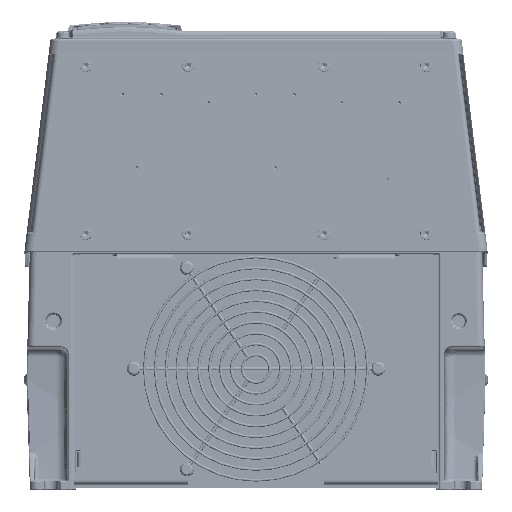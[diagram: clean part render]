
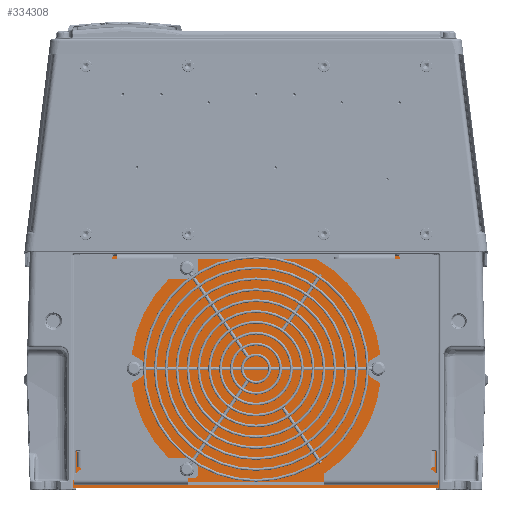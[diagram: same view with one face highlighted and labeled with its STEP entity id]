
A CAD part, front view. The second image highlights one B-rep face of the part: STEP entity #334308.
In plain terms, the highlighted planar face has unit normal (0, -1, 0).
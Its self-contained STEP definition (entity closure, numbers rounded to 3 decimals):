
#111231=DIRECTION('',(0.026,0.,-1.));
#111232=VECTOR('',#111231,153.118);
#111233=CARTESIAN_POINT('',(142.966,-280.301,
-5.935));
#111234=LINE('',#111233,#111232);
#111238=DIRECTION('',(0.026,0.,1.));
#111239=VECTOR('',#111238,153.118);
#111240=CARTESIAN_POINT('',(-146.974,-280.301,-159.));
#111241=LINE('',#111240,#111239);
#111245=CARTESIAN_POINT('',(-140.467,-280.301,-6.));
#111246=DIRECTION('',(0.,1.,0.));
#111247=DIRECTION('',(-1.,0.,0.026));
#111248=AXIS2_PLACEMENT_3D('',#111245,#111246,#111247);
#111253=DIRECTION('',(1.,0.,0.));
#111254=VECTOR('',#111253,285.516);
#111255=CARTESIAN_POINT('',(-142.758,-280.301,
-5.));
#111256=LINE('',#111255,#111254);
#111260=CARTESIAN_POINT('',(140.467,-280.301,-6.));
#111261=DIRECTION('',(0.,1.,0.));
#111262=DIRECTION('',(0.917,0.,0.4));
#111263=AXIS2_PLACEMENT_3D('',#111260,#111261,#111262);
#111340=CARTESIAN_POINT('',(142.758,-280.301,
-5.));
#114860=DIRECTION('',(1.,0.,0.));
#114861=VECTOR('',#114860,293.948);
#114862=CARTESIAN_POINT('',(-146.974,-280.301,-159.));
#114863=LINE('',#114862,#114861);
#198327=CARTESIAN_POINT('',(-146.974,-280.301,-159.));
#198328=CARTESIAN_POINT('',(-142.966,-280.301,
-5.935));
#198329=VERTEX_POINT('',#198327);
#198330=VERTEX_POINT('',#198328);
#198376=CARTESIAN_POINT('',(146.974,-280.301,-159.));
#198377=VERTEX_POINT('',#198376);
#198776=CARTESIAN_POINT('',(142.966,-280.301,
-5.935));
#198777=VERTEX_POINT('',#198776);
#199683=VERTEX_POINT('',#111340);
#199684=CARTESIAN_POINT('',(-142.758,-280.301,
-5.));
#199685=VERTEX_POINT('',#199684);
#334290=CARTESIAN_POINT('',(146.974,-280.301,-5.));
#334291=DIRECTION('',(0.,-1.,0.));
#334292=DIRECTION('',(-1.,0.,0.));
#334293=AXIS2_PLACEMENT_3D('',#334290,#334291,#334292);
#334294=PLANE('',#334293);
#334296=ORIENTED_EDGE('',*,*,#334295,.T.);
#334298=ORIENTED_EDGE('',*,*,#334297,.F.);
#334299=ORIENTED_EDGE('',*,*,#334264,.T.);
#334301=ORIENTED_EDGE('',*,*,#334300,.T.);
#334303=ORIENTED_EDGE('',*,*,#334302,.T.);
#334305=ORIENTED_EDGE('',*,*,#334304,.T.);
#334306=EDGE_LOOP('',(#334296,#334298,#334299,#334301,#334303,#334305));
#334307=FACE_OUTER_BOUND('',#334306,.F.);
#334308=ADVANCED_FACE('',(#334307),#334294,.T.);
#111249=CIRCLE('',#111248,2.5);
#111264=CIRCLE('',#111263,2.5);
#334264=EDGE_CURVE('',#198329,#198330,#111241,.T.);
#334295=EDGE_CURVE('',#198777,#198377,#111234,.T.);
#334297=EDGE_CURVE('',#198329,#198377,#114863,.T.);
#334300=EDGE_CURVE('',#198330,#199685,#111249,.T.);
#334302=EDGE_CURVE('',#199685,#199683,#111256,.T.);
#334304=EDGE_CURVE('',#199683,#198777,#111264,.T.);
